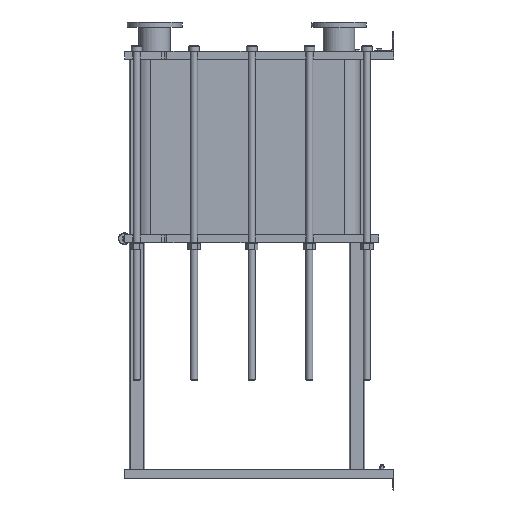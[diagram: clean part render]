
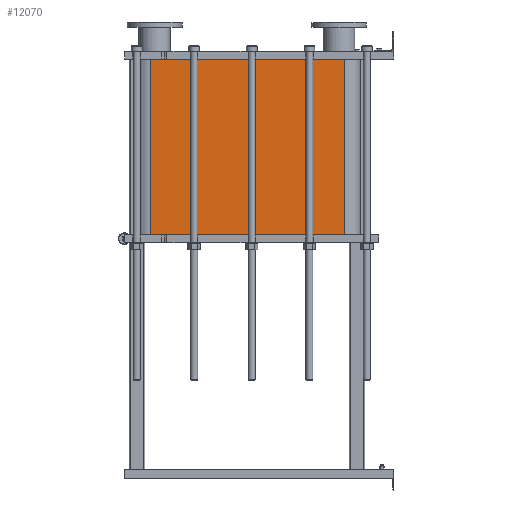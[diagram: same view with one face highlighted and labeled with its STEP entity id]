
A CAD part, left-side view. The second image highlights one B-rep face of the part: STEP entity #12070.
In plain terms, the highlighted planar face has unit normal (-1, 0, 0).
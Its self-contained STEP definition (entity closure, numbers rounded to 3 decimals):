
#1064=LINE('',#21140,#2164);
#1065=LINE('',#21144,#2165);
#1066=LINE('',#21146,#2166);
#1067=LINE('',#21147,#2167);
#2164=VECTOR('',#15790,10.);
#2165=VECTOR('',#15795,10.);
#2166=VECTOR('',#15796,10.);
#2167=VECTOR('',#15797,10.);
#3304=FACE_OUTER_BOUND('',#4091,.T.);
#4091=EDGE_LOOP('',(#9793,#9794,#9795,#9796));
#5677=VERTEX_POINT('',#21137);
#5678=VERTEX_POINT('',#21139);
#5679=VERTEX_POINT('',#21143);
#5680=VERTEX_POINT('',#21145);
#7118=EDGE_CURVE('',#5678,#5677,#1064,.T.);
#7120=EDGE_CURVE('',#5677,#5679,#1065,.T.);
#7121=EDGE_CURVE('',#5680,#5679,#1066,.T.);
#7122=EDGE_CURVE('',#5680,#5678,#1067,.T.);
#9793=ORIENTED_EDGE('',*,*,#7120,.T.);
#9794=ORIENTED_EDGE('',*,*,#7121,.F.);
#9795=ORIENTED_EDGE('',*,*,#7122,.T.);
#9796=ORIENTED_EDGE('',*,*,#7118,.T.);
#11441=PLANE('',#13191);
#12070=ADVANCED_FACE('',(#3304),#11441,.T.);
#13191=AXIS2_PLACEMENT_3D('',#21142,#15793,#15794);
#15790=DIRECTION('',(0.,0.,-1.));
#15793=DIRECTION('center_axis',(-1.,0.,0.));
#15794=DIRECTION('ref_axis',(0.,1.,0.));
#15795=DIRECTION('',(0.,-1.,0.));
#15796=DIRECTION('',(0.,0.,-1.));
#15797=DIRECTION('',(0.,1.,0.));
#21137=CARTESIAN_POINT('',(-248.152,1243.818,-897.));
#21139=CARTESIAN_POINT('',(-248.152,1243.818,0.));
#21140=CARTESIAN_POINT('',(-248.152,1243.818,0.));
#21142=CARTESIAN_POINT('Origin',(-248.152,251.818,0.));
#21143=CARTESIAN_POINT('',(-248.152,251.818,-897.));
#21144=CARTESIAN_POINT('',(-248.152,499.818,-897.));
#21145=CARTESIAN_POINT('',(-248.152,251.818,0.));
#21146=CARTESIAN_POINT('',(-248.152,251.818,0.));
#21147=CARTESIAN_POINT('',(-248.152,251.818,0.));
